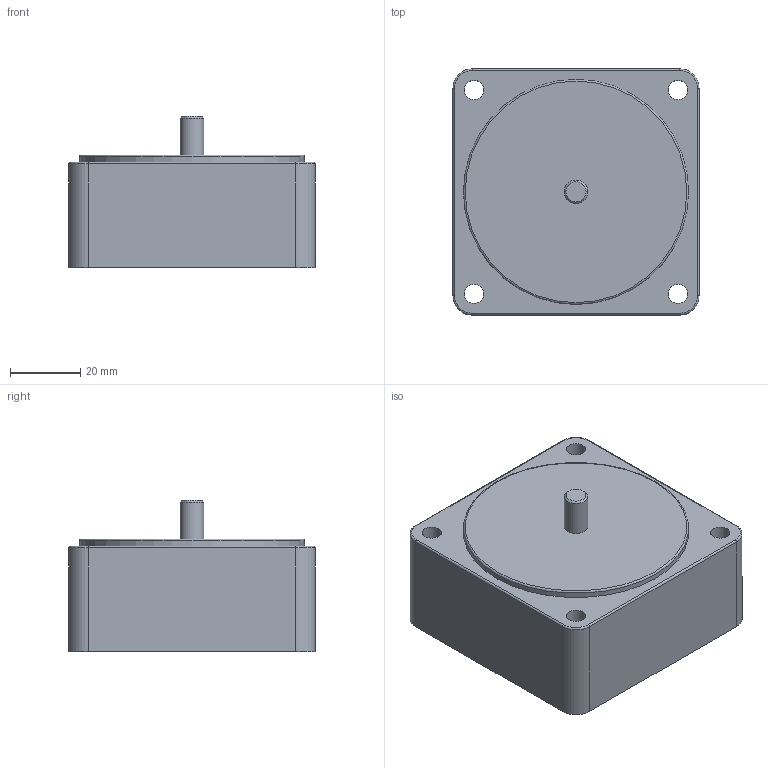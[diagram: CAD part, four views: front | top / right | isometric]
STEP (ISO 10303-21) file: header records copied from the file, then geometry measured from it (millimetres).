
FILE_DESCRIPTION((''),'2;1');
FILE_NAME('E:\2공장-도면\3D\표준형 3D(민규)\step file\감속기\K7G10BX.stp','2014-11-18T17:55:51',('AHN'),(''),'Autodesk Inventor 2012','Autodesk Inventor 2012','');
FILE_SCHEMA(('CONFIG_CONTROL_DESIGN'));
Length unit declared in the file: millimetre
Products named in the file (1): K7G10BX
Bounding box: 70 x 70 x 43 mm (x, y, z)
Volume: 150164.1 mm3; surface area: 20273.9 mm2
Topology: 1 solids, 1 shells, 28 faces, 62 edges, 38 vertices
Faces by surface type: cylinder 14, plane 8, torus 5, cone 1
Full cylindrical faces by diameter (mm): 5.5 x4, 6.7 x1, 64 x1
Entity records: 782 total; most frequent: DIRECTION 146, CARTESIAN_POINT 121, ORIENTED_EDGE 108, AXIS2_PLACEMENT_3D 63, EDGE_CURVE 54, EDGE_LOOP 46, VERTEX_POINT 38, CIRCLE 34
